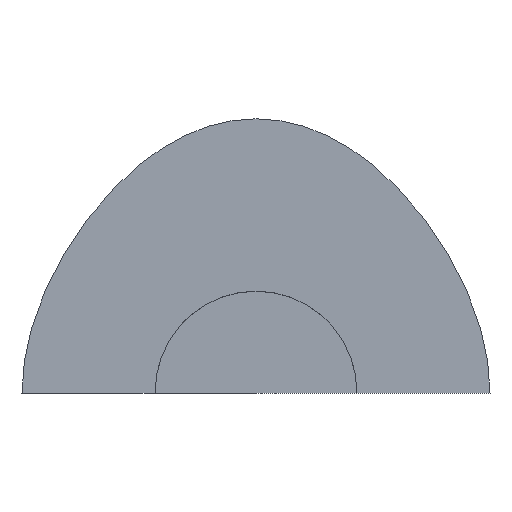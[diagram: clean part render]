
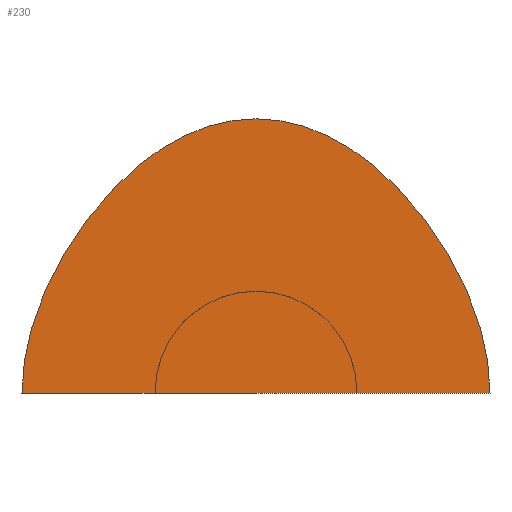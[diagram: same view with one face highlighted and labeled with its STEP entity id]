
A CAD part, top view. The second image highlights one B-rep face of the part: STEP entity #230.
In plain terms, the highlighted planar face has unit normal (0, 0, 1).
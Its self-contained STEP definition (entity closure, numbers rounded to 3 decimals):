
#193=CARTESIAN_POINT('Axis2P3D Location',(0.,55.239,0.)) ;
#198=CARTESIAN_POINT('Line Origine',(0.,0.,0.)) ;
#202=CARTESIAN_POINT('Vertex',(-116.,0.,0.)) ;
#204=CARTESIAN_POINT('Vertex',(116.,0.,0.)) ;
#208=CARTESIAN_POINT('Control Point',(0.,136.,0.)) ;
#209=CARTESIAN_POINT('Control Point',(35.75,136.,0.)) ;
#210=CARTESIAN_POINT('Control Point',(69.219,115.406,0.)) ;
#211=CARTESIAN_POINT('Control Point',(100.406,74.219,0.)) ;
#212=CARTESIAN_POINT('Control Point',(116.,35.75,0.)) ;
#213=CARTESIAN_POINT('Control Point',(116.,0.,0.)) ;
#214=CARTESIAN_POINT('Vertex',(0.,136.,0.)) ;
#218=CARTESIAN_POINT('Control Point',(0.,136.,0.)) ;
#219=CARTESIAN_POINT('Control Point',(-35.75,136.,0.)) ;
#220=CARTESIAN_POINT('Control Point',(-69.219,115.406,0.)) ;
#221=CARTESIAN_POINT('Control Point',(-100.406,74.219,0.)) ;
#222=CARTESIAN_POINT('Control Point',(-116.,35.75,0.)) ;
#223=CARTESIAN_POINT('Control Point',(-116.,0.,0.)) ;
#194=DIRECTION('Axis2P3D Direction',(0.,0.,1.)) ;
#195=DIRECTION('Axis2P3D XDirection',(1.,0.,0.)) ;
#199=DIRECTION('Vector Direction',(1.,0.,0.)) ;
#196=AXIS2_PLACEMENT_3D('Plane Axis2P3D',#193,#194,#195) ;
#226=ORIENTED_EDGE('',*,*,#206,.T.) ;
#227=ORIENTED_EDGE('',*,*,#216,.T.) ;
#228=ORIENTED_EDGE('',*,*,#224,.T.) ;
#200=VECTOR('Line Direction',#199,1.) ;
#230=ADVANCED_FACE('Fill.1',(#229),#197,.T.) ;
#207=B_SPLINE_CURVE_WITH_KNOTS('',5,(#208,#209,#210,#211,#212,#213),.UNSPECIFIED.,.F.,.U.,(6,6),(0.,178.751),.UNSPECIFIED.) ;
#217=B_SPLINE_CURVE_WITH_KNOTS('',5,(#218,#219,#220,#221,#222,#223),.UNSPECIFIED.,.F.,.U.,(6,6),(0.,178.751),.UNSPECIFIED.) ;
#206=EDGE_CURVE('',#203,#205,#201,.T.) ;
#216=EDGE_CURVE('',#205,#215,#207,.F.) ;
#224=EDGE_CURVE('',#215,#203,#217,.T.) ;
#225=EDGE_LOOP('',(#226,#227,#228)) ;
#229=FACE_OUTER_BOUND('',#225,.T.) ;
#201=LINE('Line',#198,#200) ;
#197=PLANE('',#196) ;
#203=VERTEX_POINT('',#202) ;
#205=VERTEX_POINT('',#204) ;
#215=VERTEX_POINT('',#214) ;
